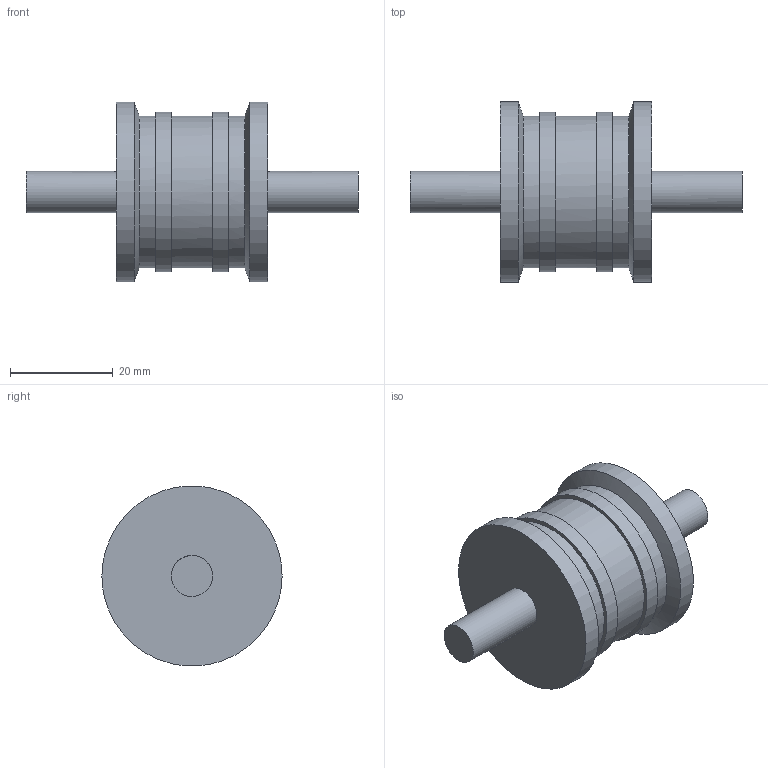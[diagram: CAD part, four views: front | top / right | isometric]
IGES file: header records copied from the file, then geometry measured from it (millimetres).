
Global section: file name: DR_PR8-M8-D35-H30; native system: Autodesk Inventor 2015; preprocessor: unknown; author: Administrator; date: 20170926.091539; units: millimetre
Bounding box: 64.5 x 35 x 34.95 mm (x, y, z)
Volume: 24586.5 mm3; surface area: 6383.3 mm2
Topology: 1 solids, 1 shells, 19 faces, 41 edges, 30 vertices
Faces by surface type: bspline 19
